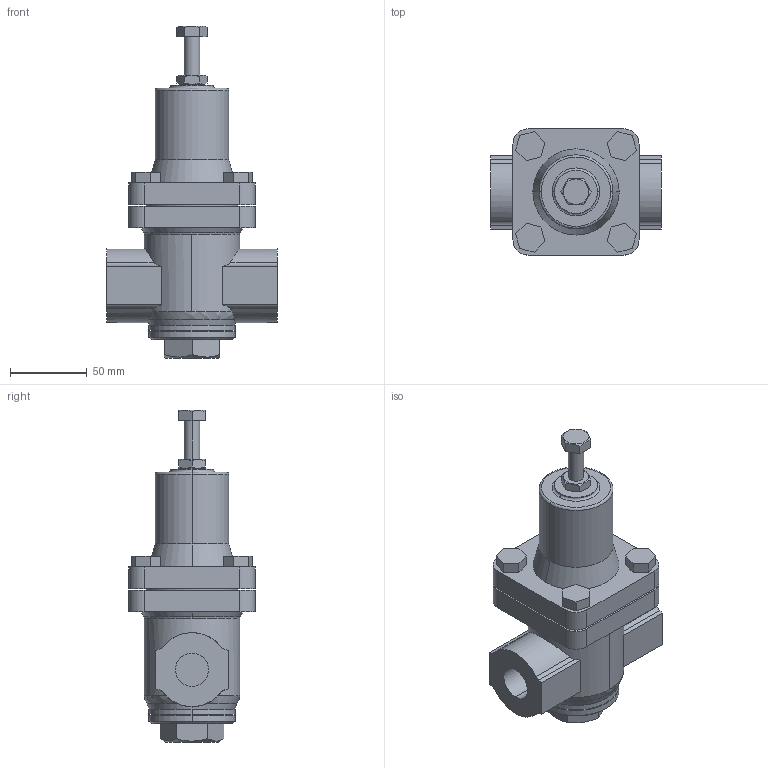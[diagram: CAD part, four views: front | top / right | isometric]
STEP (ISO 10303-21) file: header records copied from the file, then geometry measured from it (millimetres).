
FILE_DESCRIPTION( (''), '2;1');
FILE_NAME ('PC1276.4376.GD-45 20A_13953.stp','2025-12-10T13:01:58',(''),(''),'spGate 20.6.3 (****-****-****-****)','','');
FILE_SCHEMA (('AUTOMOTIVE_DESIGN'));
Length unit declared in the file: millimetre
Bounding box: 111 x 82 x 215.67 mm (x, y, z)
Volume: 620394.3 mm3; surface area: 72403.5 mm2
Topology: 1 solids, 1 shells, 150 faces, 375 edges, 245 vertices
Faces by surface type: plane 84, cylinder 42, bspline 24
Entity records: 8054 total; most frequent: CARTESIAN_POINT 1694, ORIENTED_EDGE 750, DIRECTION 618, COLOUR_RGB 526, PRESENTATION_STYLE_ASSIGNMENT 526, STYLED_ITEM 526, EDGE_CURVE 375, DRAUGHTING_PRE_DEFINED_CURVE_FONT 375
